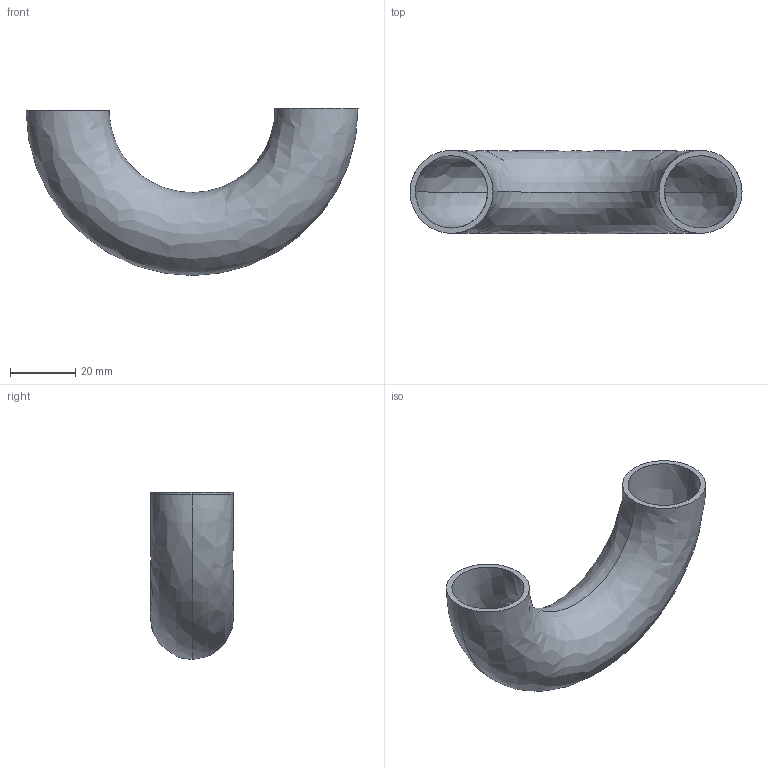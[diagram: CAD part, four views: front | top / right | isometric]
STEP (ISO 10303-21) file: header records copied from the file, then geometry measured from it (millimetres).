
FILE_DESCRIPTION (( 'STEP AP203' ), '1' );
FILE_NAME ('E2WU1.0.STEP', '2018-04-30T18:27:25', ( 'vneprd' ), ( 'Microsoft' ), 'SwSTEP 2.0', 'SolidWorks 2014', '' );
FILE_SCHEMA (( 'CONFIG_CONTROL_DESIGN' ));
Length unit declared in the file: inch
Products named in the file (1): E2WU1.0
Bounding box: 101.6 x 25.4 x 51.14 mm (x, y, z)
Volume: 14747 mm3; surface area: 18106.5 mm2
Topology: 1 solids, 1 shells, 10 faces, 22 edges, 14 vertices
Faces by surface type: bspline 8, plane 2
Entity records: 3217 total; most frequent: CARTESIAN_POINT 2951, ORIENTED_EDGE 44, DIRECTION 26, EDGE_CURVE 22, VERTEX_POINT 14, AXIS2_PLACEMENT_3D 13, EDGE_LOOP 12, B_SPLINE_CURVE_WITH_KNOTS 12
